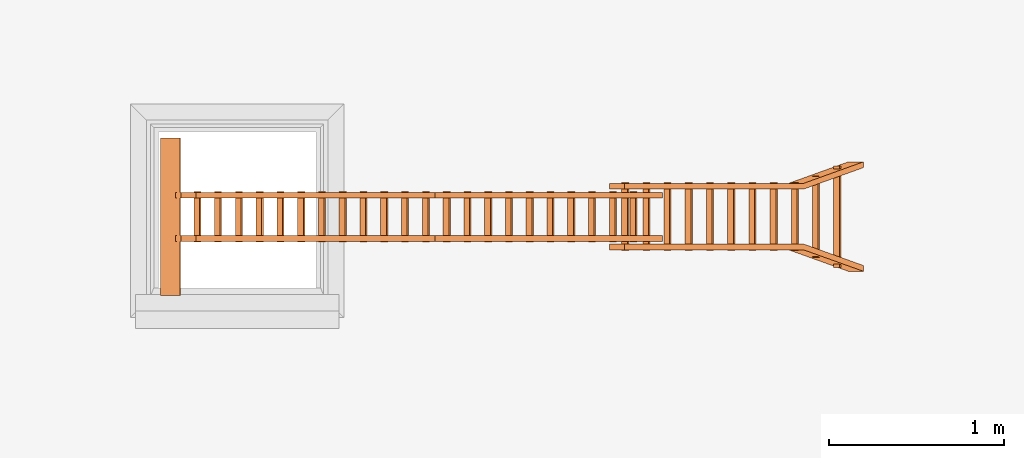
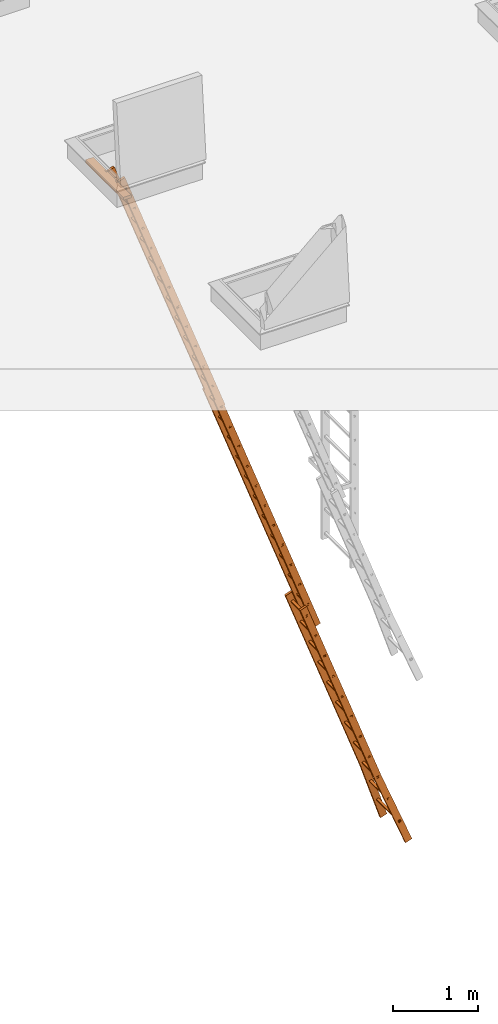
# One storey, part 11 of 28: 1 proxy, 2 openings.
"""IFC2X3 building model written with IfcOpenShell, lengths in millimetres."""

from ifc_helpers import new_model, entity, si_unit, converted_unit, derived_unit, direction, frame, frame_2d, origin, origin_2d_with_axis, place, context, subcontext, project, spatial, polyline, circle_curve, parameter, trimmed, segment, composite_curve, rectangle, outline, extrude, source, transform, mapped, type_object, type_shapes, element, save


model = new_model("IFC2X3")

# Units and contexts
model_context = context("Model", 3, precision=0.01, world=origin(), true_north=direction((6.12303176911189e-17, 1.0)))
body_context = subcontext(model_context, "Body", "Model", "MODEL_VIEW")
ifc_project = project(units=[si_unit("LENGTHUNIT", "METRE", prefix="MILLI"), si_unit("AREAUNIT", "SQUARE_METRE"), si_unit("VOLUMEUNIT", "CUBIC_METRE"), converted_unit("PLANEANGLEUNIT", "DEGREE", entity("IfcRatioMeasure", 0.0174532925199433), si_unit("PLANEANGLEUNIT", "RADIAN"), dimensions=[0, 0, 0, 0, 0, 0, 0]), si_unit("MASSUNIT", "GRAM", prefix="KILO"), derived_unit("MASSDENSITYUNIT", [(si_unit("MASSUNIT", "GRAM", prefix="KILO"), 1), (si_unit("LENGTHUNIT", "METRE"), -3)]), si_unit("TIMEUNIT", "SECOND"), si_unit("FREQUENCYUNIT", "HERTZ"), si_unit("THERMODYNAMICTEMPERATUREUNIT", "DEGREE_CELSIUS"), derived_unit("THERMALTRANSMITTANCEUNIT", [(si_unit("MASSUNIT", "GRAM", prefix="KILO"), 1), (si_unit("THERMODYNAMICTEMPERATUREUNIT", "KELVIN"), -1), (si_unit("TIMEUNIT", "SECOND"), -3)]), derived_unit("VOLUMETRICFLOWRATEUNIT", [(si_unit("LENGTHUNIT", "METRE"), 3), (si_unit("TIMEUNIT", "SECOND"), -1)]), si_unit("ELECTRICCURRENTUNIT", "AMPERE"), si_unit("ELECTRICVOLTAGEUNIT", "VOLT"), si_unit("POWERUNIT", "WATT"), si_unit("FORCEUNIT", "NEWTON", prefix="KILO"), si_unit("ILLUMINANCEUNIT", "LUX"), si_unit("LUMINOUSFLUXUNIT", "LUMEN"), si_unit("LUMINOUSINTENSITYUNIT", "CANDELA"), derived_unit("USERDEFINED", [(si_unit("MASSUNIT", "GRAM", prefix="KILO"), -1), (si_unit("LENGTHUNIT", "METRE"), -2), (si_unit("TIMEUNIT", "SECOND"), 3), (si_unit("LUMINOUSFLUXUNIT", "LUMEN"), 1)]), derived_unit("LINEARVELOCITYUNIT", [(si_unit("LENGTHUNIT", "METRE"), 1), (si_unit("TIMEUNIT", "SECOND"), -1)]), si_unit("PRESSUREUNIT", "PASCAL"), derived_unit("USERDEFINED", [(si_unit("LENGTHUNIT", "METRE"), -2), (si_unit("MASSUNIT", "GRAM", prefix="KILO"), 1), (si_unit("TIMEUNIT", "SECOND"), -2)])], contexts=[model_context])

# Site, building, storey
site_placement = place(None, origin())
site = spatial("IfcSite", under=ifc_project, at=site_placement, Name="Default", CompositionType="ELEMENT")
building_placement = place(site_placement, origin())
building = spatial("IfcBuilding", under=site, at=building_placement, CompositionType="ELEMENT")
storey_placement = place(building_placement, frame((0.0, 0.0, 4000.0)))
storey = spatial("IfcBuildingStorey", under=building, at=storey_placement, Name="Level 2", CompositionType="ELEMENT", Elevation=4000.0)

# Proxy, openings
building_element_proxy_type = type_object("IfcBuildingElementProxyType", Name="9_Topaccess_Trap_3delige1", PredefinedType="NOTDEFINED")
shared_shape = source(origin(), body_context, "Body", "SweptSolid", [
    extrude(outline(composite_curve([segment(polyline([(-20.0, -72.6666666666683), (20.0, -72.6666666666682)]), True, "CONTINUOUS"), segment(polyline([(20.0, -72.6666666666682), (20.0, 31.8333333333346)]), True, "CONTINUOUS"), segment(trimmed(circle_curve(frame_2d((11.0, 31.8333333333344), x_axis=(0.939692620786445, -0.342020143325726)), 8.99999999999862), [parameter(20.0000000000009)], [parameter(109.999999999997)], True, "PARAMETER"), True, "CONTINUOUS"), segment(polyline([(11.0, 40.8333333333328), (-11.0, 40.833333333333)]), True, "CONTINUOUS"), segment(trimmed(circle_curve(frame_2d((-11.0, 31.8333333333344), x_axis=(0.939692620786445, -0.342020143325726)), 8.99999999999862), [parameter(109.999999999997)], [parameter(199.999999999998)], True, "PARAMETER"), True, "CONTINUOUS"), segment(polyline([(-20.0, 31.8333333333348), (-20.0, -72.6666666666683)]), True, "CONTINUOUS")], self_intersect=False)), frame((-484.291584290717, 5437.00468660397, 85.555153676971), z_axis=(1.0, 0.0, 0.0), x_axis=(0.0, 0.939692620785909, 0.342020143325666)), (0.0, 0.0, 1.0), 900.0),
    extrude(outline(composite_curve([segment(polyline([(34.5620685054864, -17.3803405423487), (-85.4379314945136, -17.3803405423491)]), True, "CONTINUOUS"), segment(polyline([(-85.4379314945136, -17.3803405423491), (-85.4379314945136, -20.3803405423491)]), True, "CONTINUOUS"), segment(polyline([(-85.4379314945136, -20.3803405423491), (34.8237042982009, -20.3803405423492)]), True, "CONTINUOUS"), segment(trimmed(circle_curve(frame_2d((31.2529900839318, 0.719659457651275), x_axis=(1.0, 0.0)), 21.4), [parameter(279.605058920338)], [parameter(66.7401617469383)], True, "PARAMETER"), True, "CONTINUOUS"), segment(polyline([(39.7038846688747, 20.3803405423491), (11.3620685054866, 20.380340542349)]), True, "CONTINUOUS"), segment(polyline([(11.3620685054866, 20.380340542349), (11.3620685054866, 17.380340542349)]), True, "CONTINUOUS"), segment(polyline([(11.3620685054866, 17.380340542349), (39.0620685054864, 17.3803405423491)]), True, "CONTINUOUS"), segment(trimmed(circle_curve(frame_2d((31.2529900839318, 0.719659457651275), x_axis=(1.0, 0.0)), 18.4), [parameter(280.36051137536)], [parameter(64.8869014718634)], True, "PARAMETER"), False, "CONTINUOUS")], self_intersect=False)), frame((72.0, 5400.1320556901, 113.619659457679), z_axis=(-1.0, 0.0, 0.0), x_axis=(0.0, 1.0, 0.0)), (0.0, 0.0, -1.0), 33.0),
    extrude(outline(composite_curve([segment(polyline([(-85.4379314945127, -17.3803405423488), (-85.4379314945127, -20.3803405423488)]), True, "CONTINUOUS"), segment(polyline([(-85.4379314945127, -20.3803405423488), (34.8237042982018, -20.3803405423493)]), True, "CONTINUOUS"), segment(trimmed(circle_curve(frame_2d((31.2529900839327, 0.719659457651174), x_axis=(1.0, 0.0)), 21.4), [parameter(279.605058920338)], [parameter(66.7401617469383)], True, "PARAMETER"), True, "CONTINUOUS"), segment(polyline([(39.7038846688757, 20.380340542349), (11.3620685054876, 20.380340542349)]), True, "CONTINUOUS"), segment(polyline([(11.3620685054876, 20.380340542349), (11.3620685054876, 17.380340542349)]), True, "CONTINUOUS"), segment(polyline([(11.3620685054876, 17.380340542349), (39.0620685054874, 17.380340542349)]), True, "CONTINUOUS"), segment(trimmed(circle_curve(frame_2d((31.2529900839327, 0.719659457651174), x_axis=(1.0, 0.0)), 18.4), [parameter(280.36051137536)], [parameter(64.8869014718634)], True, "PARAMETER"), False, "CONTINUOUS"), segment(polyline([(34.5620685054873, -17.3803405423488), (-85.4379314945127, -17.3803405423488)]), True, "CONTINUOUS")], self_intersect=False)), frame((-175.0, 5400.13205569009, 113.619659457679), z_axis=(-1.0, 0.0, 0.0), x_axis=(0.0, 1.0, 0.0)), (0.0, 0.0, -1.0), 33.0000000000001),
    extrude(outline(polyline([(-11.5216143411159, -16.5), (13.8405381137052, -16.5), (13.8405381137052, 16.4999999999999), (-16.1594618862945, 16.5), (-11.5216143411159, -16.5)]), holes=[polyline([(8.84053811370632, -11.5), (-7.1751806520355, -11.5), (-10.4076198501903, 11.5000000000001), (8.84053811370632, 11.5), (8.84053811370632, -11.5)])]), frame((-178.583168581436, 1440.72573419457, 171.084388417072), z_axis=(1.0, 0.0, 0.0), x_axis=(0.0, -1.0, 0.0)), (0.0, 0.0, 1.0), 288.583168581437),
    extrude(outline(polyline([(-11.5216143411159, -16.5), (13.8405381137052, -16.5), (13.8405381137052, 16.4999999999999), (-16.1594618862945, 16.5), (-11.5216143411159, -16.5)]), holes=[polyline([(8.84053811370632, -11.5), (-7.1751806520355, -11.5), (-10.4076198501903, 11.5000000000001), (8.84053811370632, 11.5), (8.84053811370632, -11.5)])]), frame((-178.583168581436, 1093.22573419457, 171.084388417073), z_axis=(1.0, 0.0, 0.0), x_axis=(0.0, -1.0, 0.0)), (0.0, 0.0, 1.0), 288.583168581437),
    extrude(outline(polyline([(-11.5216143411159, -16.5), (13.8405381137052, -16.5), (13.8405381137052, 16.4999999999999), (-16.1594618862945, 16.5), (-11.5216143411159, -16.5)]), holes=[polyline([(8.84053811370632, -11.5), (-7.1751806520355, -11.5), (-10.4076198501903, 11.5000000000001), (8.84053811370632, 11.5), (8.84053811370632, -11.5)])]), frame((-178.583168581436, 745.725734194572, 171.084388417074), z_axis=(1.0, 0.0, 0.0), x_axis=(0.0, -1.0, 0.0)), (0.0, 0.0, 1.0), 288.583168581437),
    extrude(outline(polyline([(-11.5216143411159, -16.5), (13.8405381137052, -16.5), (13.8405381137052, 16.4999999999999), (-16.1594618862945, 16.5), (-11.5216143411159, -16.5)]), holes=[polyline([(8.84053811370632, -11.5), (-7.1751806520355, -11.5), (-10.4076198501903, 11.5000000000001), (8.84053811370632, 11.5), (8.84053811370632, -11.5)])]), frame((-178.583168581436, 398.225734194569, 171.084388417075), z_axis=(1.0, 0.0, 0.0), x_axis=(0.0, -1.0, 0.0)), (0.0, 0.0, 1.0), 288.583168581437),
    extrude(outline(polyline([(-11.5216143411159, -16.5), (13.8405381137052, -16.5), (13.8405381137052, 16.4999999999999), (-16.1594618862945, 16.5), (-11.5216143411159, -16.5)]), holes=[polyline([(8.84053811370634, -11.5), (-7.17518065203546, -11.5), (-10.4076198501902, 11.5000000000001), (8.84053811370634, 11.5), (8.84053811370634, -11.5)])]), frame((-178.583168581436, 50.7257341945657, 171.084388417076), z_axis=(1.0, 0.0, 0.0), x_axis=(0.0, -1.0, 0.0)), (0.0, 0.0, 1.0), 288.583168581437),
    extrude(outline(polyline([(-11.5216143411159, -16.5), (13.8405381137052, -16.5), (13.8405381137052, 16.4999999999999), (-16.1594618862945, 16.5), (-11.5216143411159, -16.5)]), holes=[polyline([(8.84053811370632, -11.5), (-7.17518065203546, -11.5), (-10.4076198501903, 11.5000000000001), (8.84053811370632, 11.5), (8.84053811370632, -11.5)])]), frame((-178.583168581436, -296.774265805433, 171.084388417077), z_axis=(1.0, 0.0, 0.0), x_axis=(0.0, -1.0, 0.0)), (0.0, 0.0, 1.0), 288.583168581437),
    extrude(outline(polyline([(-11.5216143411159, -16.5), (13.8405381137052, -16.5), (13.8405381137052, 16.4999999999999), (-16.1594618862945, 16.5), (-11.5216143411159, -16.5)]), holes=[polyline([(8.84053811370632, -11.5), (-7.1751806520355, -11.5), (-10.4076198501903, 11.5000000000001), (8.84053811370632, 11.5), (8.84053811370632, -11.5)])]), frame((-178.583168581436, -644.274265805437, 171.084388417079), z_axis=(1.0, 0.0, 0.0), x_axis=(0.0, -1.0, 0.0)), (0.0, 0.0, 1.0), 288.583168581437),
    extrude(outline(polyline([(-11.5216143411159, -16.5), (13.8405381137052, -16.5), (13.8405381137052, 16.4999999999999), (-16.1594618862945, 16.5), (-11.5216143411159, -16.5)]), holes=[polyline([(8.84053811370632, -11.5), (-7.1751806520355, -11.5), (-10.4076198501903, 11.5000000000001), (8.84053811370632, 11.5), (8.84053811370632, -11.5)])]), frame((-178.583168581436, -991.774265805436, 171.08438841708), z_axis=(1.0, 0.0, 0.0), x_axis=(0.0, -1.0, 0.0)), (0.0, 0.0, 1.0), 288.583168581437),
    extrude(outline(polyline([(-11.5216143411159, -16.5), (13.8405381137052, -16.5), (13.8405381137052, 16.4999999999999), (-16.1594618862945, 16.5), (-11.5216143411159, -16.5)]), holes=[polyline([(8.84053811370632, -11.5), (-7.1751806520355, -11.5), (-10.4076198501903, 11.5000000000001), (8.84053811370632, 11.5), (8.84053811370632, -11.5)])]), frame((-178.583168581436, -1339.27426580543, 171.084388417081), z_axis=(1.0, 0.0, 0.0), x_axis=(0.0, -1.0, 0.0)), (0.0, 0.0, 1.0), 288.583168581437),
    extrude(outline(polyline([(-11.5216143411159, -16.4999999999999), (13.8405381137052, -16.4999999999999), (13.8405381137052, 16.4999999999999), (-16.1594618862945, 16.5), (-11.5216143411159, -16.4999999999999)]), holes=[polyline([(8.84053811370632, -11.5), (-7.1751806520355, -11.5), (-10.4076198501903, 11.5000000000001), (8.84053811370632, 11.5), (8.84053811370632, -11.5)])]), frame((-178.583168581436, -1686.77426580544, 171.084388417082), z_axis=(1.0, 0.0, 0.0), x_axis=(0.0, -1.0, 0.0)), (0.0, 0.0, 1.0), 288.583168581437),
    extrude(rectangle(XDim=33.0, YDim=4000.0, at=origin_2d_with_axis()), frame((88.5000000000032, -399.911054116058, 120.0), z_axis=(0.0, 0.0, 1.0), x_axis=(-1.0, 0.0, 0.0)), (0.0, 0.0, 1.0), 92.0),
    extrude(rectangle(XDim=33.0, YDim=4000.0, at=frame_2d((8.88178419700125e-15, 0.0), x_axis=(1.0, 0.0))), frame((-158.499999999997, -399.911054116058, 120.0), z_axis=(0.0, 0.0, 1.0), x_axis=(-1.0, 0.0, 0.0)), (0.0, 0.0, 1.0), 92.0),
    extrude(rectangle(XDim=33.0, YDim=4000.0, at=origin_2d_with_axis()), frame((88.5000000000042, 3440.6557599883, 134.0), z_axis=(0.0, 0.0, 1.0), x_axis=(-1.0, 0.0, 0.0)), (0.0, 0.0, 1.0), 90.0),
    extrude(rectangle(XDim=33.0, YDim=4000.0, at=frame_2d((8.88178419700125e-15, -5.6843418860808e-13), x_axis=(1.0, 0.0))), frame((-158.499999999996, 3440.6557599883, 134.0), z_axis=(0.0, 0.0, 1.0), x_axis=(-1.0, 0.0, 0.0)), (0.0, 0.0, 1.0), 90.0),
    extrude(outline(polyline([(-11.5216143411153, -16.5), (13.8405381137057, -16.5), (13.8405381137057, 16.5), (-16.159461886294, 16.5000000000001), (-11.5216143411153, -16.5)]), holes=[polyline([(8.84053811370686, -11.5), (-7.17518065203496, -11.5), (-10.4076198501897, 11.5), (8.84053811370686, 11.5), (8.84053811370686, -11.5)])]), frame((-178.583168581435, 5281.29254829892, 176.084388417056), z_axis=(1.0, 0.0, 0.0), x_axis=(0.0, -1.0, 0.0)), (0.0, 0.0, 1.0), 288.583168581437),
    extrude(outline(polyline([(-11.5216143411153, -16.5), (13.8405381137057, -16.5), (13.8405381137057, 16.5), (-16.159461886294, 16.5000000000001), (-11.5216143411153, -16.5)]), holes=[polyline([(8.84053811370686, -11.5), (-7.17518065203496, -11.5), (-10.4076198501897, 11.5), (8.84053811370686, 11.5), (8.84053811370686, -11.5)])]), frame((-178.583168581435, 4933.79254829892, 176.084388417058), z_axis=(1.0, 0.0, 0.0), x_axis=(0.0, -1.0, 0.0)), (0.0, 0.0, 1.0), 288.583168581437),
    extrude(outline(polyline([(-11.5216143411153, -16.5), (13.8405381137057, -16.5), (13.8405381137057, 16.5), (-16.159461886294, 16.5000000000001), (-11.5216143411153, -16.5)]), holes=[polyline([(8.84053811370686, -11.5), (-7.17518065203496, -11.5), (-10.4076198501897, 11.5), (8.84053811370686, 11.5), (8.84053811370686, -11.5)])]), frame((-178.583168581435, 4586.29254829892, 176.084388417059), z_axis=(1.0, 0.0, 0.0), x_axis=(0.0, -1.0, 0.0)), (0.0, 0.0, 1.0), 288.583168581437),
    extrude(outline(polyline([(-11.5216143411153, -16.5), (13.8405381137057, -16.5), (13.8405381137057, 16.4999999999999), (-16.159461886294, 16.5), (-11.5216143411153, -16.5)]), holes=[polyline([(8.84053811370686, -11.5), (-7.17518065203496, -11.5), (-10.4076198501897, 11.5), (8.84053811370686, 11.4999999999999), (8.84053811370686, -11.5)])]), frame((-178.583168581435, 4238.79254829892, 176.08438841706), z_axis=(1.0, 0.0, 0.0), x_axis=(0.0, -1.0, 0.0)), (0.0, 0.0, 1.0), 288.583168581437),
    extrude(outline(polyline([(-11.5216143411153, -16.5), (13.8405381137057, -16.5), (13.8405381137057, 16.5), (-16.159461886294, 16.5000000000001), (-11.5216143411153, -16.5)]), holes=[polyline([(8.84053811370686, -11.5), (-7.17518065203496, -11.5), (-10.4076198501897, 11.5), (8.84053811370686, 11.5), (8.84053811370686, -11.5)])]), frame((-178.583168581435, 3891.29254829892, 176.084388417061), z_axis=(1.0, 0.0, 0.0), x_axis=(0.0, -1.0, 0.0)), (0.0, 0.0, 1.0), 288.583168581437),
    extrude(outline(polyline([(-11.5216143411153, -16.5), (13.8405381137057, -16.5), (13.8405381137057, 16.5), (-16.159461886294, 16.5000000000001), (-11.5216143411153, -16.5)]), holes=[polyline([(8.84053811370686, -11.5), (-7.17518065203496, -11.5), (-10.4076198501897, 11.5), (8.84053811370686, 11.5), (8.84053811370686, -11.5)])]), frame((-178.583168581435, 3543.79254829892, 176.084388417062), z_axis=(1.0, 0.0, 0.0), x_axis=(0.0, -1.0, 0.0)), (0.0, 0.0, 1.0), 288.583168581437),
    extrude(outline(polyline([(-11.5216143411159, -16.5), (13.8405381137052, -16.5), (13.8405381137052, 16.4999999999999), (-16.1594618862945, 16.5), (-11.5216143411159, -16.5)]), holes=[polyline([(8.84053811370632, -11.5), (-7.1751806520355, -11.5), (-10.4076198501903, 11.5), (8.84053811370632, 11.5), (8.84053811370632, -11.5)])]), frame((-178.583168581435, 3196.29254829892, 176.084388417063), z_axis=(1.0, 0.0, 0.0), x_axis=(0.0, -1.0, 0.0)), (0.0, 0.0, 1.0), 288.583168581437),
    extrude(outline(polyline([(-11.5216143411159, -16.5), (13.8405381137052, -16.5), (13.8405381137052, 16.4999999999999), (-16.1594618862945, 16.5), (-11.5216143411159, -16.5)]), holes=[polyline([(8.84053811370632, -11.5), (-7.1751806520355, -11.5), (-10.4076198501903, 11.5), (8.84053811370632, 11.5), (8.84053811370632, -11.5)])]), frame((-178.583168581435, 2848.79254829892, 176.084388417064), z_axis=(1.0, 0.0, 0.0), x_axis=(0.0, -1.0, 0.0)), (0.0, 0.0, 1.0), 288.583168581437),
    extrude(outline(polyline([(-11.5216143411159, -16.5), (13.8405381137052, -16.5), (13.8405381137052, 16.5), (-16.1594618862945, 16.5000000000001), (-11.5216143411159, -16.5)]), holes=[polyline([(8.84053811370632, -11.5), (-7.1751806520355, -11.5), (-10.4076198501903, 11.5000000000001), (8.84053811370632, 11.5), (8.84053811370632, -11.5)])]), frame((-178.583168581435, 2501.29254829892, 176.084388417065), z_axis=(1.0, 0.0, 0.0), x_axis=(0.0, -1.0, 0.0)), (0.0, 0.0, 1.0), 288.583168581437),
    extrude(outline(polyline([(-11.5216143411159, -16.5), (13.8405381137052, -16.5), (13.8405381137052, 16.5), (-16.1594618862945, 16.5000000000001), (-11.5216143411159, -16.5)]), holes=[polyline([(8.84053811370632, -11.5), (-7.1751806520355, -11.5), (-10.4076198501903, 11.5), (8.84053811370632, 11.5), (8.84053811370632, -11.5)])]), frame((-178.583168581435, 2153.79254829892, 176.084388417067), z_axis=(1.0, 0.0, 0.0), x_axis=(0.0, -1.0, 0.0)), (0.0, 0.0, 1.0), 288.583168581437),
    extrude(outline(polyline([(-11.5216143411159, -16.5), (13.8405381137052, -16.5), (13.8405381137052, 16.4999999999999), (-16.1594618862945, 16.5), (-11.5216143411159, -16.5)]), holes=[polyline([(8.84053811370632, -11.5), (-7.1751806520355, -11.5), (-10.4076198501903, 11.5), (8.84053811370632, 11.5), (8.84053811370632, -11.5)])]), frame((-178.583168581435, 1806.29254829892, 176.084388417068), z_axis=(1.0, 0.0, 0.0), x_axis=(0.0, -1.0, 0.0)), (0.0, 0.0, 1.0), 288.583168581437),
    extrude(outline(polyline([(-11.5216143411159, -16.5), (13.8405381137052, -16.5), (13.8405381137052, 16.4999999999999), (-16.1594618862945, 16.5), (-11.5216143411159, -16.5)]), holes=[polyline([(8.84053811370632, -11.5), (-7.1751806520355, -11.5), (-10.4076198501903, 11.5), (8.84053811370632, 11.5), (8.84053811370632, -11.5)])]), frame((-227.077291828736, -2129.53575748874, 85.0843884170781), z_axis=(1.0, 0.0, 0.0), x_axis=(0.0, -1.0, 0.0)), (0.0, 0.0, 1.0), 389.077291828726),
    extrude(outline(polyline([(-11.5216143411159, -16.5), (13.8405381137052, -16.5), (13.8405381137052, 16.5), (-16.1594618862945, 16.5), (-11.5216143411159, -16.5)]), holes=[polyline([(8.84053811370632, -11.5), (-7.1751806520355, -11.5), (-10.4076198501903, 11.5), (8.84053811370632, 11.5), (8.84053811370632, -11.5)])]), frame((-227.077291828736, -2484.53575748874, 85.0843884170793), z_axis=(1.0, 0.0, 0.0), x_axis=(0.0, -1.0, 0.0)), (0.0, 0.0, 1.0), 389.077291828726),
    extrude(outline(polyline([(-11.5216143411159, -16.5), (13.8405381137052, -16.5), (13.8405381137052, 16.4999999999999), (-16.1594618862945, 16.5), (-11.5216143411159, -16.5)]), holes=[polyline([(8.84053811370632, -11.5), (-7.1751806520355, -11.5), (-10.4076198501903, 11.5), (8.84053811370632, 11.5), (8.84053811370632, -11.5)])]), frame((-227.077291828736, -2839.53575748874, 85.0843884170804), z_axis=(1.0, 0.0, 0.0), x_axis=(0.0, -1.0, 0.0)), (0.0, 0.0, 1.0), 389.077291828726),
    extrude(outline(polyline([(-11.5216143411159, -16.5), (13.8405381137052, -16.5), (13.8405381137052, 16.4999999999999), (-16.1594618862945, 16.5), (-11.5216143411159, -16.5)]), holes=[polyline([(8.84053811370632, -11.5), (-7.1751806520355, -11.5), (-10.4076198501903, 11.5000000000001), (8.84053811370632, 11.5), (8.84053811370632, -11.5)])]), frame((-178.583168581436, -2034.27426580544, 171.084388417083), z_axis=(1.0, 0.0, 0.0), x_axis=(0.0, -1.0, 0.0)), (0.0, 0.0, 1.0), 288.583168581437),
    extrude(outline(polyline([(-11.5216143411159, -16.5), (13.8405381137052, -16.5), (13.8405381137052, 16.4999999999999), (-16.1594618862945, 16.5), (-11.5216143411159, -16.5)]), holes=[polyline([(8.84053811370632, -11.5), (-7.1751806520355, -11.5), (-10.4076198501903, 11.5), (8.84053811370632, 11.5), (8.84053811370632, -11.5)])]), frame((-227.077291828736, -3194.53575748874, 85.0843884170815), z_axis=(1.0, 0.0, 0.0), x_axis=(0.0, -1.0, 0.0)), (0.0, 0.0, 1.0), 389.077291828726),
    extrude(outline(polyline([(-11.5216143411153, -16.5), (13.8405381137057, -16.5), (13.8405381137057, 16.4999999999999), (-16.159461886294, 16.5), (-11.5216143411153, -16.5)]), holes=[polyline([(8.84053811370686, -11.5), (-7.17518065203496, -11.5), (-10.4076198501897, 11.5), (8.84053811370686, 11.5), (8.84053811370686, -11.5)])]), frame((-227.077291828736, -3549.53575748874, 85.0843884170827), z_axis=(1.0, 0.0, 0.0), x_axis=(0.0, -1.0, 0.0)), (0.0, 0.0, 1.0), 389.077291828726),
    extrude(outline(polyline([(-11.5216143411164, -16.5), (13.8405381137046, -16.5), (13.8405381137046, 16.5), (-16.159461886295, 16.5), (-11.5216143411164, -16.5)]), holes=[polyline([(8.84053811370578, -11.5), (-7.17518065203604, -11.5), (-10.4076198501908, 11.5), (8.84053811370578, 11.5), (8.84053811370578, -11.5)])]), frame((-227.077291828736, -3904.53575748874, 85.0843884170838), z_axis=(1.0, 0.0, 0.0), x_axis=(0.0, -1.0, 0.0)), (0.0, 0.0, 1.0), 389.077291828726),
    extrude(outline(polyline([(-11.5216143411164, -16.5), (13.8405381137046, -16.5), (13.8405381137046, 16.5), (-16.159461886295, 16.5000000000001), (-11.5216143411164, -16.5)]), holes=[polyline([(8.84053811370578, -11.5), (-7.17518065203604, -11.5), (-10.4076198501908, 11.5000000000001), (8.84053811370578, 11.5), (8.84053811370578, -11.5)])]), frame((-227.077291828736, -4259.53575748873, 85.084388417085), z_axis=(1.0, 0.0, 0.0), x_axis=(0.0, -1.0, 0.0)), (0.0, 0.0, 1.0), 389.077291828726),
    extrude(outline(polyline([(-11.5216143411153, -16.5), (13.8405381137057, -16.5), (13.8405381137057, 16.5), (-16.159461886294, 16.5000000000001), (-11.5216143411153, -16.5)]), holes=[polyline([(8.84053811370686, -11.5), (-7.17518065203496, -11.5), (-10.4076198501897, 11.5000000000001), (8.84053811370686, 11.5), (8.84053811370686, -11.5)])]), frame((-227.077291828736, -4614.53575748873, 85.0843884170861), z_axis=(1.0, 0.0, 0.0), x_axis=(0.0, -1.0, 0.0)), (0.0, 0.0, 1.0), 389.077291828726),
    extrude(outline(polyline([(-11.5216143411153, -16.5), (13.8405381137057, -16.5), (13.8405381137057, 16.5), (-16.159461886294, 16.5000000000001), (-11.5216143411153, -16.5)]), holes=[polyline([(8.84053811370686, -11.5), (-7.17518065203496, -11.5), (-10.4076198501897, 11.5000000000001), (8.84053811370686, 11.5), (8.84053811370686, -11.5)])]), frame((-227.077291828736, -4969.53575748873, 85.0843884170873), z_axis=(1.0, 0.0, 0.0), x_axis=(0.0, -1.0, 0.0)), (0.0, 0.0, 1.0), 389.077291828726),
    extrude(outline(polyline([(-11.5216143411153, -16.5), (13.8405381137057, -16.5), (13.8405381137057, 16.5), (-16.159461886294, 16.5000000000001), (-11.5216143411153, -16.5)]), holes=[polyline([(8.84053811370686, -11.5), (-7.17518065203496, -11.5), (-10.4076198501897, 11.5), (8.84053811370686, 11.5), (8.84053811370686, -11.5)])]), frame((-266.000121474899, -5324.53575748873, 85.0843884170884), z_axis=(1.0, 0.0, 0.0), x_axis=(0.0, -1.0, 0.0)), (0.0, 0.0, 1.0), 465.000121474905),
    extrude(outline(polyline([(-11.5216143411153, -16.5), (13.8405381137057, -16.5), (13.8405381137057, 16.5), (-16.159461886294, 16.5000000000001), (-11.5216143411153, -16.5)]), holes=[polyline([(8.84053811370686, -11.5), (-7.17518065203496, -11.5), (-10.4076198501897, 11.5000000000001), (8.84053811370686, 11.5), (8.84053811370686, -11.5)])]), frame((-323.951711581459, -5679.53575748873, 85.0843884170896), z_axis=(1.0, 0.0, 0.0), x_axis=(0.0, -1.0, 0.0)), (0.0, 0.0, 1.0), 580.345535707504),
    extrude(outline(polyline([(652.705853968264, -138.16622783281), (1663.21970450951, -138.16622783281), (1667.27159501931, -105.166227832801), (656.727542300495, -105.412204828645), (-2317.9515037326, 259.832455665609), (-2321.97319206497, 227.078432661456), (652.705853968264, -138.16622783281)])), frame((181.59152386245, -4331.59474961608, 35.4999999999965), z_axis=(0.0, 0.0, 1.0), x_axis=(0.121869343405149, -0.992546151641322, 0.0)), (0.0, 0.0, 1.0), 92.0),
    extrude(outline(polyline([(655.058107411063, 105.207223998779), (1667.6054819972, 105.207223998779), (1663.55359148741, 138.207223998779), (653.039740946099, 138.207223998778), (-2321.63930508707, -227.037436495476), (-2317.6176167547, -259.791459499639), (655.058107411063, 105.207223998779)])), frame((-247.591523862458, -4331.25835520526, 35.4999999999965), z_axis=(0.0, 0.0, 1.0), x_axis=(-0.121869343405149, -0.992546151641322, 0.0)), (0.0, 0.0, 1.0), 92.0),
])
type_shapes(building_element_proxy_type, [shared_shape])
proxy_placement = place(storey_placement, frame((9167.62341815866, 9273.76438888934, -4726.49653876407), z_axis=(0.939692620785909, 0.0, 0.342020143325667), x_axis=(0.0, 1.0, 0.0)))
proxy = element("IfcBuildingElementProxy", 1, at=proxy_placement, inside=storey, type_object=building_element_proxy_type, Name="9_Topaccess_Trap_3delige1:9_Topaccess_Trap_3delige1", ObjectType="9_Topaccess_Trap_3delige1", context=body_context, shape_type="MappedRepresentation", body=[
    mapped(shared_shape, transform((0.0, 0.0, 0.0), scale=1.0)),
])
opening_1_placement = place(storey_placement, frame((9167.62341815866, 9273.76438888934, -726.496538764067), z_axis=(0.321393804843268, 0.939692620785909, 0.11697777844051), x_axis=(-0.342020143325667, 0.0, 0.939692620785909)))
element("IfcOpeningElement", 2, at=opening_1_placement, cuts=proxy, Name="9_Topaccess_Trap_3delige1:9_Topaccess_Trap_3delige1:1", ObjectType="Opening", context=body_context, shape_type="SweptSolid", body=[
    extrude(rectangle(XDim=42.5298592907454, YDim=59.0000000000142, at=frame_2d((1.4210854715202e-14, 0.0), x_axis=(1.0, 0.0))), frame((5417.83179579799, -3629.61402459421, -1489.74364376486), z_axis=(0.939692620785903, 0.321393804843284, 0.116977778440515), x_axis=(0.342020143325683, -0.883022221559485, -0.321393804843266)), (0.0, 0.0, 1.0), 40.0),
])
opening_2_placement = place(storey_placement, frame((9167.62341815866, 9273.76438888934, -726.496538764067), z_axis=(0.321393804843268, 0.939692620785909, 0.11697777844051), x_axis=(-0.342020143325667, 0.0, 0.939692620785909)))
element("IfcOpeningElement", 3, at=opening_2_placement, cuts=proxy, Name="9_Topaccess_Trap_3delige1:9_Topaccess_Trap_3delige1:2", ObjectType="Opening", context=body_context, shape_type="SweptSolid", body=[
    extrude(rectangle(XDim=42.5298592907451, YDim=59.0000000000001, at=frame_2d((1.4210854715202e-13, 0.0), x_axis=(1.0, 0.0))), frame((5417.83179579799, -3714.09299999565, -1257.63956643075), z_axis=(0.939692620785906, 0.321393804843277, 0.116977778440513), x_axis=(0.342020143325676, -0.883022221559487, -0.321393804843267)), (0.0, 0.0, 1.0), 40.0000000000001),
])

save(model, "model.ifc")
